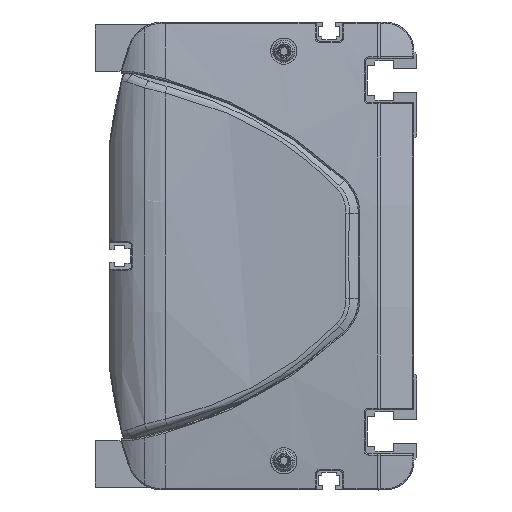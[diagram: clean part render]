
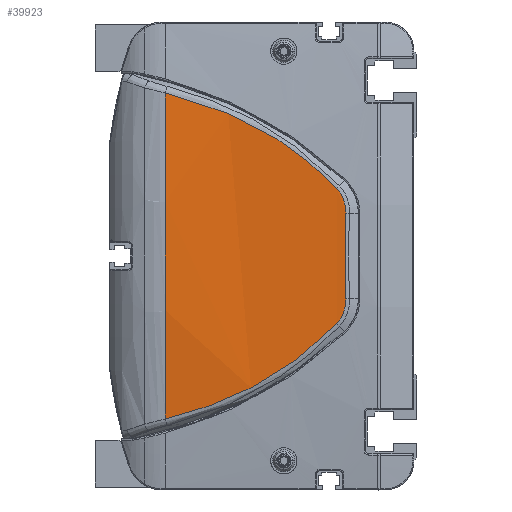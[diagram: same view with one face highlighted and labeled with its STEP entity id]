
A CAD part, left-side view. The second image highlights one B-rep face of the part: STEP entity #39923.
In plain terms, the highlighted cylindrical face has radius 600 mm (diameter 1200 mm), a partial arc.
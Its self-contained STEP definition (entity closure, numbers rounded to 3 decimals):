
#34874=CARTESIAN_POINT('',(-12.406,86.,
55.736));
#34894=CARTESIAN_POINT('',(-12.406,86.,
55.736));
#34895=CARTESIAN_POINT('',(-12.529,80.495,
54.41));
#34896=CARTESIAN_POINT('',(-12.828,69.636,
51.114));
#34897=CARTESIAN_POINT('',(-13.389,54.079,
44.179));
#34898=CARTESIAN_POINT('',(-14.01,39.709,
34.979));
#34899=CARTESIAN_POINT('',(-14.395,31.353,
27.243));
#34900=CARTESIAN_POINT('',(-14.555,27.451,
23.113));
#34902=CARTESIAN_POINT('',(-14.555,27.451,
23.113));
#34903=CARTESIAN_POINT('',(-14.598,26.394,
21.994));
#34904=CARTESIAN_POINT('',(-14.695,24.746,
19.315));
#34905=CARTESIAN_POINT('',(-14.783,24.276,
16.208));
#34906=CARTESIAN_POINT('',(-14.821,24.351,
14.67));
#34908=CARTESIAN_POINT('',(-14.821,24.351,
14.67));
#34909=CARTESIAN_POINT('',(-14.9,24.51,
11.413));
#34910=CARTESIAN_POINT('',(-15.007,24.721,
4.895));
#34911=CARTESIAN_POINT('',(-15.007,24.721,
-4.895));
#34912=CARTESIAN_POINT('',(-14.9,24.51,
-11.413));
#34913=CARTESIAN_POINT('',(-14.821,24.351,
-14.67));
#34915=CARTESIAN_POINT('',(-14.821,24.351,
-14.67));
#34916=CARTESIAN_POINT('',(-14.783,24.276,
-16.208));
#34917=CARTESIAN_POINT('',(-14.695,24.746,
-19.315));
#34918=CARTESIAN_POINT('',(-14.598,26.394,
-21.995));
#34919=CARTESIAN_POINT('',(-14.555,27.451,
-23.113));
#34921=CARTESIAN_POINT('',(-14.555,27.451,
-23.113));
#34922=CARTESIAN_POINT('',(-14.395,31.353,
-27.243));
#34923=CARTESIAN_POINT('',(-14.01,39.709,
-34.979));
#34924=CARTESIAN_POINT('',(-13.389,54.079,
-44.179));
#34925=CARTESIAN_POINT('',(-12.828,69.636,
-51.114));
#34926=CARTESIAN_POINT('',(-12.529,80.495,
-54.41));
#34927=CARTESIAN_POINT('',(-12.406,86.,
-55.736));
#34929=CARTESIAN_POINT('',(585.,86.,0.));
#34930=DIRECTION('',(0.,1.,0.));
#34931=DIRECTION('',(-0.996,0.,-0.093));
#34932=AXIS2_PLACEMENT_3D('',#34929,#34930,#34931);
#35495=VERTEX_POINT('',#34874);
#35496=CARTESIAN_POINT('',(-12.406,86.,
-55.736));
#35497=VERTEX_POINT('',#35496);
#35549=VERTEX_POINT('',#34900);
#35550=VERTEX_POINT('',#34906);
#35551=VERTEX_POINT('',#34913);
#35552=VERTEX_POINT('',#34919);
#39906=CARTESIAN_POINT('',(585.,87.45,0.));
#39907=DIRECTION('',(0.,-1.,0.));
#39908=DIRECTION('',(0.,0.,-1.));
#39909=AXIS2_PLACEMENT_3D('',#39906,#39907,#39908);
#39910=CYLINDRICAL_SURFACE('',#39909,600.);
#39911=ORIENTED_EDGE('',*,*,#39897,.T.);
#39913=ORIENTED_EDGE('',*,*,#39912,.T.);
#39915=ORIENTED_EDGE('',*,*,#39914,.T.);
#39917=ORIENTED_EDGE('',*,*,#39916,.T.);
#39919=ORIENTED_EDGE('',*,*,#39918,.T.);
#39920=ORIENTED_EDGE('',*,*,#39788,.T.);
#39921=EDGE_LOOP('',(#39911,#39913,#39915,#39917,#39919,#39920));
#39922=FACE_OUTER_BOUND('',#39921,.F.);
#39923=ADVANCED_FACE('',(#39922),#39910,.T.);
#34901=B_SPLINE_CURVE_WITH_KNOTS('',3,(#34894,#34895,#34896,#34897,#34898,
#34899,#34900),.UNSPECIFIED.,.F.,.F.,(4,1,1,1,4),(0.,0.25,0.5,0.75,
1.),.UNSPECIFIED.);
#34907=B_SPLINE_CURVE_WITH_KNOTS('',3,(#34902,#34903,#34904,#34905,#34906),
.UNSPECIFIED.,.F.,.F.,(4,1,4),(0.,0.5,1.),.UNSPECIFIED.);
#34914=B_SPLINE_CURVE_WITH_KNOTS('',3,(#34908,#34909,#34910,#34911,#34912,
#34913),.UNSPECIFIED.,.F.,.F.,(4,1,1,4),(0.,0.333,
0.667,1.),.UNSPECIFIED.);
#34920=B_SPLINE_CURVE_WITH_KNOTS('',3,(#34915,#34916,#34917,#34918,#34919),
.UNSPECIFIED.,.F.,.F.,(4,1,4),(0.,0.5,1.),.UNSPECIFIED.);
#34928=B_SPLINE_CURVE_WITH_KNOTS('',3,(#34921,#34922,#34923,#34924,#34925,
#34926,#34927),.UNSPECIFIED.,.F.,.F.,(4,1,1,1,4),(0.,0.25,0.5,0.75,
1.),.UNSPECIFIED.);
#34933=CIRCLE('',#34932,600.);
#39788=EDGE_CURVE('',#35497,#35495,#34933,.T.);
#39897=EDGE_CURVE('',#35495,#35549,#34901,.T.);
#39912=EDGE_CURVE('',#35549,#35550,#34907,.T.);
#39914=EDGE_CURVE('',#35550,#35551,#34914,.T.);
#39916=EDGE_CURVE('',#35551,#35552,#34920,.T.);
#39918=EDGE_CURVE('',#35552,#35497,#34928,.T.);
